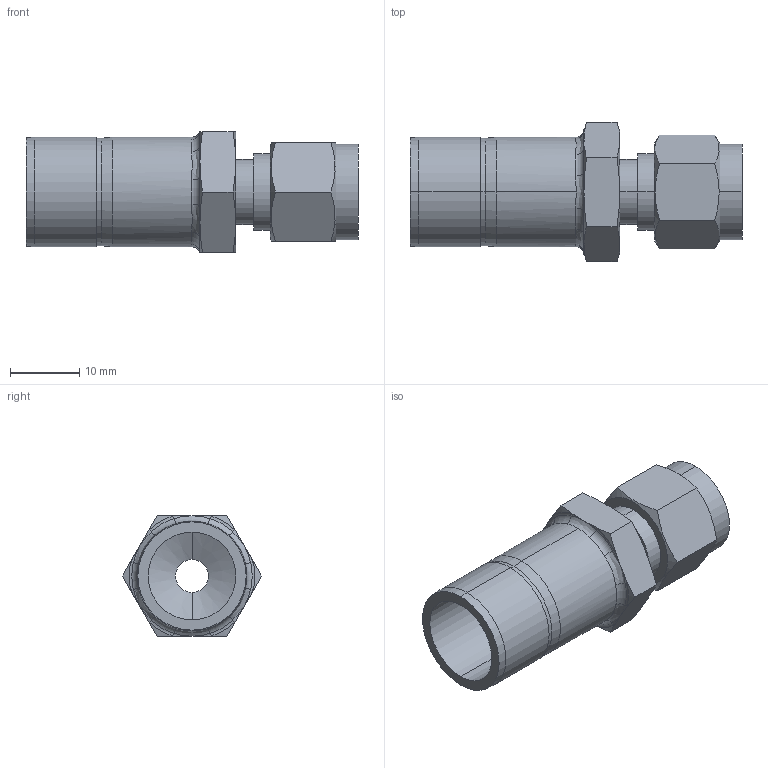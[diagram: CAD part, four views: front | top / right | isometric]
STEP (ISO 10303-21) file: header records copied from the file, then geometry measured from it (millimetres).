
FILE_DESCRIPTION (( 'STEP AP203' ), '1' );
FILE_NAME ('DRE04-10 SS.STEP', '2009-09-08T08:37:37', ( ' ' ), ( '' ), 'SwSTEP 2.0', 'SolidWorks 2008', '' );
FILE_SCHEMA (( 'CONFIG_CONTROL_DESIGN' ));
Length unit declared in the file: millimetre
Products named in the file (1): DRE04-10 SS
Bounding box: 48.1 x 20.16 x 17.46 mm (x, y, z)
Volume: 4935.3 mm3; surface area: 4442.6 mm2
Topology: 1 solids, 1 shells, 78 faces, 176 edges, 104 vertices
Faces by surface type: cone 24, plane 24, cylinder 18, bspline 6, torus 6
Entity records: 2585 total; most frequent: CARTESIAN_POINT 829, ORIENTED_EDGE 352, DIRECTION 348, EDGE_CURVE 176, AXIS2_PLACEMENT_3D 147, VERTEX_POINT 104, EDGE_LOOP 84, ADVANCED_FACE 78
